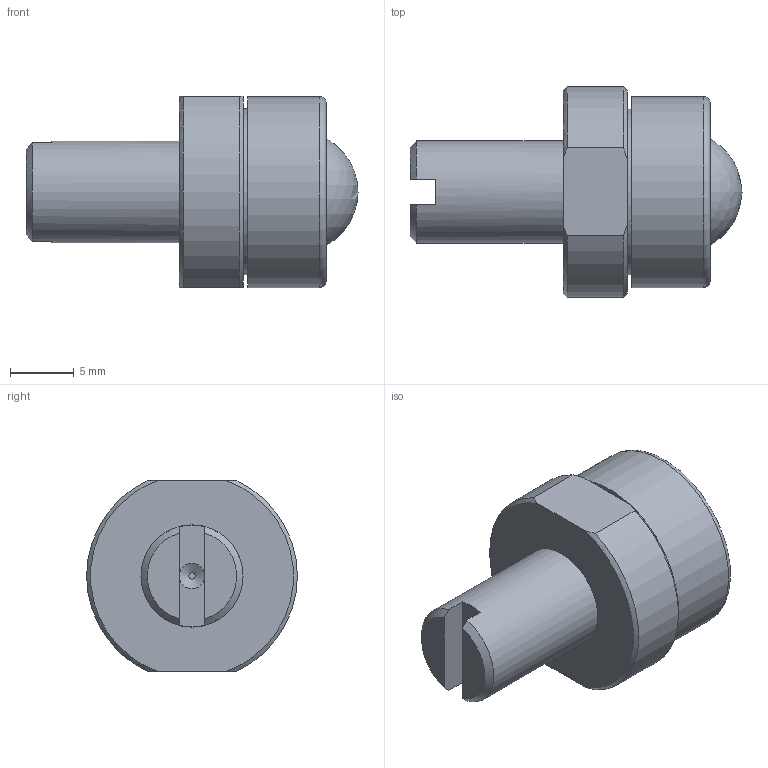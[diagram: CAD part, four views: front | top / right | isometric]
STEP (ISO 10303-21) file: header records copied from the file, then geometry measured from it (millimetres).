
FILE_DESCRIPTION(/* description */ (''),/* implementation_level */ '2;1');
FILE_NAME(/* name */ 'Z:\34-Tei\web 3Dデータ\ISCS-10型\ISCS-10U1S-J型.stp',/* time_stamp */ '2015-01-06T09:35:23+09:00',/* author */ ('yamaki'),/* organization */ (''),/* preprocessor_version */ 'ST-DEVELOPER v15.6',/* originating_system */ 'Autodesk Inventor 2015',/* authorisation */ '');
FILE_SCHEMA (('AUTOMOTIVE_DESIGN { 1 0 10303 214 3 1 1 }'));
Length unit declared in the file: millimetre
Products named in the file (4): 6604HT; 3010952; 6604CP; ISCS-10U1S-J型
Bounding box: 26 x 16.5 x 15 mm (x, y, z)
Volume: 2442.9 mm3; surface area: 2484.4 mm2
Topology: 3 solids, 3 shells, 42 faces, 92 edges, 58 vertices
Faces by surface type: plane 16, cylinder 12, cone 10, sphere 2, torus 2
Full cylindrical faces by diameter (mm): 0.5 x1, 2 x1, 8 x1, 9.2 x1, 12.1 x1, 13 x1, 13.2 x1, 13.5 x1, 13.65 x1, 15 x1
Entity records: 1123 total; most frequent: CARTESIAN_POINT 198, DIRECTION 196, ORIENTED_EDGE 140, AXIS2_PLACEMENT_3D 89, EDGE_CURVE 70, EDGE_LOOP 67, VERTEX_POINT 55, FACE_OUTER_BOUND 42
